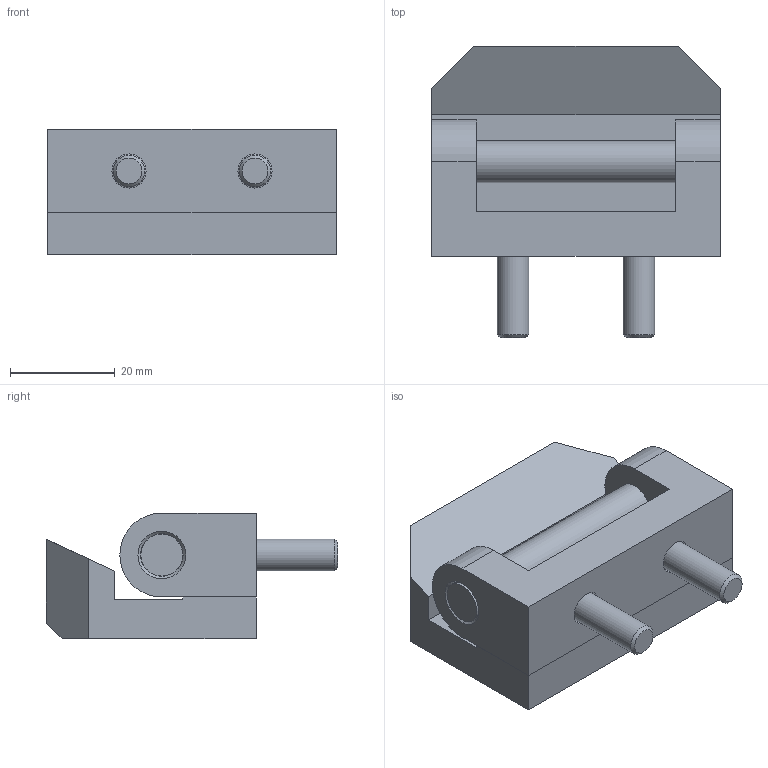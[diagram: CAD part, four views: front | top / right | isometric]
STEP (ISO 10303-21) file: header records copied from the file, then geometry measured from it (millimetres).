
FILE_DESCRIPTION (( 'STEP AP214' ), '1' );
FILE_NAME ('ENS N50122 AVEC BUTEE 90°.step', '2024-12-03T16:27:48', ( '' ), ( '' ), 'SwSTEP 2.0', 'SolidWorks 2023', '' );
FILE_SCHEMA (( 'AUTOMOTIVE_DESIGN' ));
Length unit declared in the file: millimetre
Products named in the file (6): N20779; N30124; N50122_N50122 (Argent); ENS N50122 AVEC BUTEE 90°; socket head cap screw_APC_Vis CHC M4 x 16 - 16N; socket button head screw_APC_Vis BHC - M6 x 20 - 20N
Assembly tree (8 placements, depth 2):
  ENS N50122 AVEC BUTEE 90°
    N50122_N50122 (Argent)
    N30124
    socket button head screw_APC_Vis BHC - M6 x 20 - 20N  x2
    N20779
    socket head cap screw_APC_Vis CHC M4 x 16 - 16N  x3
Bounding box: 55 x 55.5 x 24 mm (x, y, z)
Volume: 35920 mm3; surface area: 15972.3 mm2
Topology: 8 solids, 8 shells, 152 faces, 328 edges, 205 vertices
Faces by surface type: plane 104, cylinder 26, cone 12, torus 8, sphere 2
Full cylindrical faces by diameter (mm): 4 x3, 4.5 x3, 6 x2, 6.5 x2, 7 x3, 7.5 x3, 8 x1, 8.1 x2, 8.3 x1, 10.5 x2, 11.5 x2
Entity records: 2470 total; most frequent: DIRECTION 421, CARTESIAN_POINT 379, ORIENTED_EDGE 322, EDGE_CURVE 161, AXIS2_PLACEMENT_3D 160, EDGE_LOOP 139, VERTEX_POINT 118, FACE_OUTER_BOUND 111
